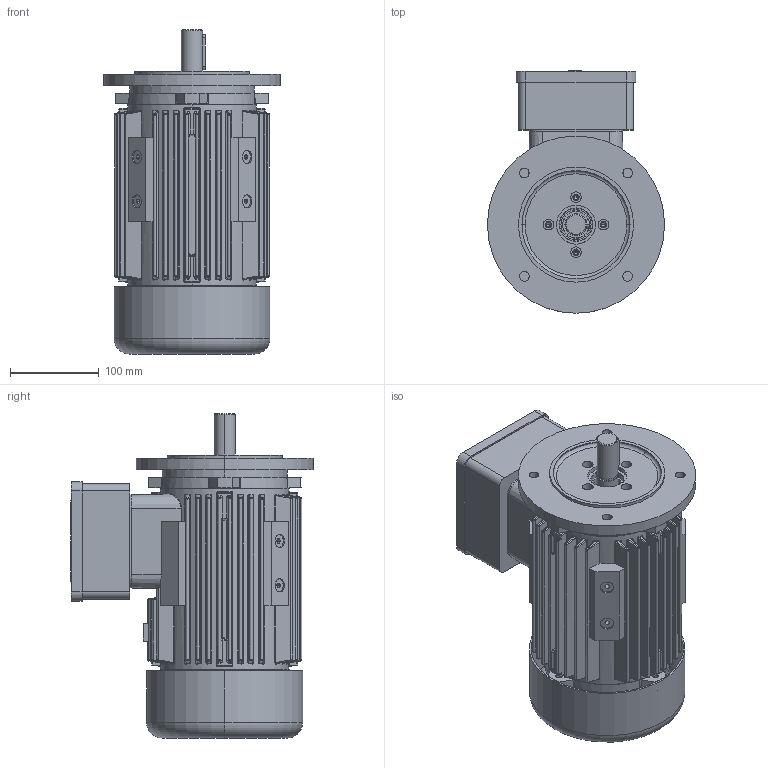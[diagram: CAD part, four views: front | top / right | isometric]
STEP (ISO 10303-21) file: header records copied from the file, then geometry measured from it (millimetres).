
FILE_DESCRIPTION (( 'STEP AP214' ), '1' );
FILE_NAME ('20.18364-B 7AZ 90 B5 STANDK.STEP', '2018-04-09T12:47:48', ( '' ), ( '' ), 'SwSTEP 2.0', 'SolidWorks 2017', '' );
FILE_SCHEMA (( 'AUTOMOTIVE_DESIGN' ));
Length unit declared in the file: millimetre
Products named in the file (1): 20.18364-B 7AZ 90 B5 STANDK
Bounding box: 200 x 273.8 x 366 mm (x, y, z)
Volume: 2681953.7 mm3; surface area: 858543.5 mm2
Topology: 10 solids, 10 shells, 2335 faces, 5721 edges, 3341 vertices
Faces by surface type: cylinder 812, bspline 729, plane 559, torus 107, cone 102, sphere 26
Entity records: 120784 total; most frequent: CARTESIAN_POINT 47235, ORIENTED_EDGE 11082, DIRECTION 9057, EDGE_CURVE 5541, AXIS2_PLACEMENT_3D 3520, VERTEX_POINT 3341, EDGE_LOOP 2530, FACE_OUTER_BOUND 2335
